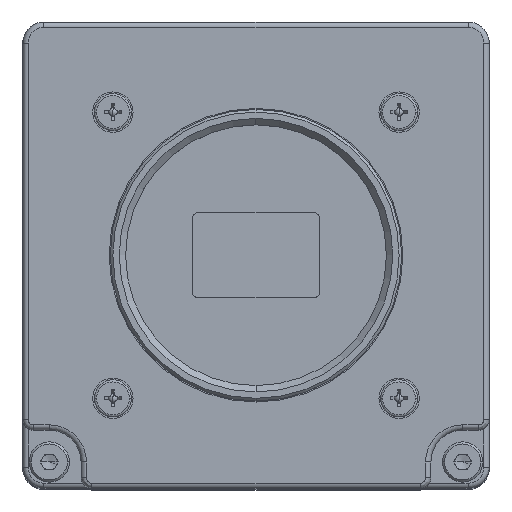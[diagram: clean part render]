
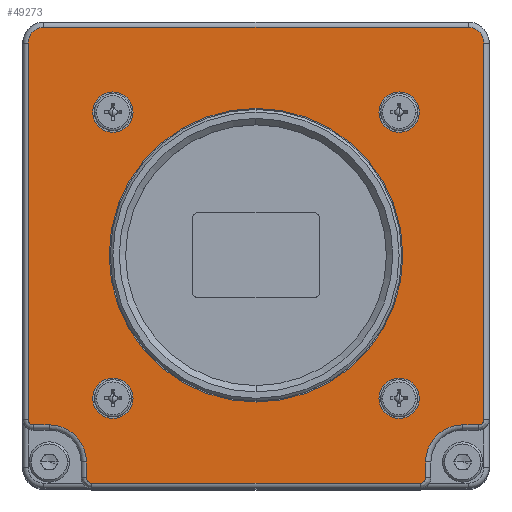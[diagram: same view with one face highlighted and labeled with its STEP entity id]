
A CAD part, top view. The second image highlights one B-rep face of the part: STEP entity #49273.
In plain terms, the highlighted planar face has unit normal (0, 0, 1).
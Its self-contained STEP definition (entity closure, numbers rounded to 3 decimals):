
#10975=CARTESIAN_POINT('',(-21.,-15.5,68.5));
#10976=DIRECTION('',(0.,0.,1.));
#10977=DIRECTION('',(-1.,0.,0.));
#10978=AXIS2_PLACEMENT_3D('',#10975,#10976,#10977);
#10980=CARTESIAN_POINT('',(-20.,20.,68.5));
#10981=DIRECTION('',(0.,0.,1.));
#10982=DIRECTION('',(0.,1.,0.));
#10983=AXIS2_PLACEMENT_3D('',#10980,#10981,#10982);
#10985=CARTESIAN_POINT('',(20.,20.,68.5));
#10986=DIRECTION('',(0.,0.,1.));
#10987=DIRECTION('',(1.,0.,0.));
#10988=AXIS2_PLACEMENT_3D('',#10985,#10986,#10987);
#10990=CARTESIAN_POINT('',(21.,-15.5,68.5));
#10991=DIRECTION('',(0.,0.,1.));
#10992=DIRECTION('',(0.,-1.,0.));
#10993=AXIS2_PLACEMENT_3D('',#10990,#10991,#10992);
#10995=CARTESIAN_POINT('',(19.5,-19.5,68.5));
#10996=DIRECTION('',(0.,0.,-1.));
#10997=DIRECTION('',(-1.,0.,0.));
#10998=AXIS2_PLACEMENT_3D('',#10995,#10996,#10997);
#11000=CARTESIAN_POINT('',(15.5,-21.,68.5));
#11001=DIRECTION('',(0.,0.,1.));
#11002=DIRECTION('',(0.,-1.,0.));
#11003=AXIS2_PLACEMENT_3D('',#11000,#11001,#11002);
#11005=CARTESIAN_POINT('',(-15.5,-21.,68.5));
#11006=DIRECTION('',(0.,0.,1.));
#11007=DIRECTION('',(-1.,0.,0.));
#11008=AXIS2_PLACEMENT_3D('',#11005,#11006,#11007);
#11010=CARTESIAN_POINT('',(-19.5,-19.5,68.5));
#11011=DIRECTION('',(0.,0.,-1.));
#11012=DIRECTION('',(0.,1.,0.));
#11013=AXIS2_PLACEMENT_3D('',#11010,#11011,#11012);
#11015=CARTESIAN_POINT('',(-13.5,13.5,68.5));
#11016=DIRECTION('',(0.,0.,-1.));
#11017=DIRECTION('',(1.,0.,0.));
#11018=AXIS2_PLACEMENT_3D('',#11015,#11016,#11017);
#11020=CARTESIAN_POINT('',(-13.5,13.5,68.5));
#11021=DIRECTION('',(0.,0.,-1.));
#11022=DIRECTION('',(-1.,0.,0.));
#11023=AXIS2_PLACEMENT_3D('',#11020,#11021,#11022);
#11025=CARTESIAN_POINT('',(13.5,13.5,68.5));
#11026=DIRECTION('',(0.,0.,-1.));
#11027=DIRECTION('',(-1.,0.,0.));
#11028=AXIS2_PLACEMENT_3D('',#11025,#11026,#11027);
#11030=CARTESIAN_POINT('',(13.5,13.5,68.5));
#11031=DIRECTION('',(0.,0.,-1.));
#11032=DIRECTION('',(1.,0.,0.));
#11033=AXIS2_PLACEMENT_3D('',#11030,#11031,#11032);
#11035=CARTESIAN_POINT('',(-13.5,-13.5,68.5));
#11036=DIRECTION('',(0.,0.,-1.));
#11037=DIRECTION('',(1.,0.,0.));
#11038=AXIS2_PLACEMENT_3D('',#11035,#11036,#11037);
#11040=CARTESIAN_POINT('',(-13.5,-13.5,68.5));
#11041=DIRECTION('',(0.,0.,-1.));
#11042=DIRECTION('',(-1.,0.,0.));
#11043=AXIS2_PLACEMENT_3D('',#11040,#11041,#11042);
#11045=CARTESIAN_POINT('',(13.5,-13.5,68.5));
#11046=DIRECTION('',(0.,0.,-1.));
#11047=DIRECTION('',(1.,0.,0.));
#11048=AXIS2_PLACEMENT_3D('',#11045,#11046,#11047);
#11050=CARTESIAN_POINT('',(13.5,-13.5,68.5));
#11051=DIRECTION('',(0.,0.,-1.));
#11052=DIRECTION('',(-1.,0.,0.));
#11053=AXIS2_PLACEMENT_3D('',#11050,#11051,#11052);
#11055=CARTESIAN_POINT('',(0.,0.,68.5));
#11056=DIRECTION('',(0.,0.,-1.));
#11057=DIRECTION('',(-1.,0.,0.));
#11058=AXIS2_PLACEMENT_3D('',#11055,#11056,#11057);
#11060=CARTESIAN_POINT('',(0.,0.,68.5));
#11061=DIRECTION('',(0.,0.,-1.));
#11062=DIRECTION('',(1.,0.,0.));
#11063=AXIS2_PLACEMENT_3D('',#11060,#11061,#11062);
#11084=DIRECTION('',(0.,-1.,0.));
#11085=VECTOR('',#11084,35.5);
#11086=CARTESIAN_POINT('',(-21.5,20.,68.5));
#11087=LINE('',#11086,#11085);
#11109=DIRECTION('',(1.,0.,0.));
#11110=VECTOR('',#11109,1.5);
#11111=CARTESIAN_POINT('',(-21.,-16.,68.5));
#11112=LINE('',#11111,#11110);
#11136=DIRECTION('',(0.,-1.,0.));
#11137=VECTOR('',#11136,1.5);
#11138=CARTESIAN_POINT('',(-16.,-19.5,68.5));
#11139=LINE('',#11138,#11137);
#11155=DIRECTION('',(1.,0.,0.));
#11156=VECTOR('',#11155,31.);
#11157=CARTESIAN_POINT('',(-15.5,-21.5,68.5));
#11158=LINE('',#11157,#11156);
#11178=DIRECTION('',(0.,1.,0.));
#11179=VECTOR('',#11178,1.5);
#11180=CARTESIAN_POINT('',(16.,-21.,68.5));
#11181=LINE('',#11180,#11179);
#11205=DIRECTION('',(1.,0.,0.));
#11206=VECTOR('',#11205,1.5);
#11207=CARTESIAN_POINT('',(19.5,-16.,68.5));
#11208=LINE('',#11207,#11206);
#11224=DIRECTION('',(0.,1.,0.));
#11225=VECTOR('',#11224,35.5);
#11226=CARTESIAN_POINT('',(21.5,-15.5,68.5));
#11227=LINE('',#11226,#11225);
#11247=DIRECTION('',(-1.,0.,0.));
#11248=VECTOR('',#11247,40.);
#11249=CARTESIAN_POINT('',(20.,21.5,68.5));
#11250=LINE('',#11249,#11248);
#37268=CARTESIAN_POINT('',(-20.,21.5,68.5));
#37269=CARTESIAN_POINT('',(-21.5,20.,68.5));
#37270=VERTEX_POINT('',#37268);
#37271=VERTEX_POINT('',#37269);
#37272=CARTESIAN_POINT('',(-21.5,-15.5,68.5));
#37273=CARTESIAN_POINT('',(-21.,-16.,68.5));
#37274=VERTEX_POINT('',#37272);
#37275=VERTEX_POINT('',#37273);
#37276=CARTESIAN_POINT('',(20.,21.5,68.5));
#37277=VERTEX_POINT('',#37276);
#37278=CARTESIAN_POINT('',(21.5,20.,68.5));
#37279=VERTEX_POINT('',#37278);
#37280=CARTESIAN_POINT('',(21.5,-15.5,68.5));
#37281=VERTEX_POINT('',#37280);
#37282=CARTESIAN_POINT('',(21.,-16.,68.5));
#37283=VERTEX_POINT('',#37282);
#37284=CARTESIAN_POINT('',(19.5,-16.,68.5));
#37285=VERTEX_POINT('',#37284);
#37286=CARTESIAN_POINT('',(16.,-19.5,68.5));
#37287=VERTEX_POINT('',#37286);
#37288=CARTESIAN_POINT('',(16.,-21.,68.5));
#37289=VERTEX_POINT('',#37288);
#37290=CARTESIAN_POINT('',(15.5,-21.5,68.5));
#37291=VERTEX_POINT('',#37290);
#37292=CARTESIAN_POINT('',(-15.5,-21.5,68.5));
#37293=VERTEX_POINT('',#37292);
#37294=CARTESIAN_POINT('',(-16.,-21.,68.5));
#37295=VERTEX_POINT('',#37294);
#37296=CARTESIAN_POINT('',(-16.,-19.5,68.5));
#37297=VERTEX_POINT('',#37296);
#37298=CARTESIAN_POINT('',(-19.5,-16.,68.5));
#37299=VERTEX_POINT('',#37298);
#37300=CARTESIAN_POINT('',(-11.6,13.5,68.5));
#37301=CARTESIAN_POINT('',(-15.4,13.5,68.5));
#37302=VERTEX_POINT('',#37300);
#37303=VERTEX_POINT('',#37301);
#37304=CARTESIAN_POINT('',(11.6,13.5,68.5));
#37305=CARTESIAN_POINT('',(15.4,13.5,68.5));
#37306=VERTEX_POINT('',#37304);
#37307=VERTEX_POINT('',#37305);
#37308=CARTESIAN_POINT('',(-11.6,-13.5,68.5));
#37309=CARTESIAN_POINT('',(-15.4,-13.5,68.5));
#37310=VERTEX_POINT('',#37308);
#37311=VERTEX_POINT('',#37309);
#37312=CARTESIAN_POINT('',(15.4,-13.5,68.5));
#37313=CARTESIAN_POINT('',(11.6,-13.5,68.5));
#37314=VERTEX_POINT('',#37312);
#37315=VERTEX_POINT('',#37313);
#37316=CARTESIAN_POINT('',(-13.85,0.,68.5));
#37317=CARTESIAN_POINT('',(13.85,0.,68.5));
#37318=VERTEX_POINT('',#37316);
#37319=VERTEX_POINT('',#37317);
#49205=CARTESIAN_POINT('',(0.,0.,68.5));
#49206=DIRECTION('',(0.,0.,1.));
#49207=DIRECTION('',(1.,0.,0.));
#49208=AXIS2_PLACEMENT_3D('',#49205,#49206,#49207);
#49209=PLANE('',#49208);
#49211=ORIENTED_EDGE('',*,*,#49210,.F.);
#49213=ORIENTED_EDGE('',*,*,#49212,.F.);
#49214=ORIENTED_EDGE('',*,*,#49195,.F.);
#49216=ORIENTED_EDGE('',*,*,#49215,.F.);
#49218=ORIENTED_EDGE('',*,*,#49217,.F.);
#49220=ORIENTED_EDGE('',*,*,#49219,.F.);
#49222=ORIENTED_EDGE('',*,*,#49221,.F.);
#49224=ORIENTED_EDGE('',*,*,#49223,.F.);
#49226=ORIENTED_EDGE('',*,*,#49225,.F.);
#49228=ORIENTED_EDGE('',*,*,#49227,.F.);
#49230=ORIENTED_EDGE('',*,*,#49229,.F.);
#49232=ORIENTED_EDGE('',*,*,#49231,.F.);
#49234=ORIENTED_EDGE('',*,*,#49233,.F.);
#49236=ORIENTED_EDGE('',*,*,#49235,.F.);
#49238=ORIENTED_EDGE('',*,*,#49237,.F.);
#49240=ORIENTED_EDGE('',*,*,#49239,.F.);
#49241=EDGE_LOOP('',(#49211,#49213,#49214,#49216,#49218,#49220,#49222,#49224,
#49226,#49228,#49230,#49232,#49234,#49236,#49238,#49240));
#49242=FACE_OUTER_BOUND('',#49241,.F.);
#49244=ORIENTED_EDGE('',*,*,#49243,.F.);
#49246=ORIENTED_EDGE('',*,*,#49245,.F.);
#49247=EDGE_LOOP('',(#49244,#49246));
#49248=FACE_BOUND('',#49247,.F.);
#49250=ORIENTED_EDGE('',*,*,#49249,.F.);
#49252=ORIENTED_EDGE('',*,*,#49251,.F.);
#49253=EDGE_LOOP('',(#49250,#49252));
#49254=FACE_BOUND('',#49253,.F.);
#49256=ORIENTED_EDGE('',*,*,#49255,.F.);
#49258=ORIENTED_EDGE('',*,*,#49257,.F.);
#49259=EDGE_LOOP('',(#49256,#49258));
#49260=FACE_BOUND('',#49259,.F.);
#49262=ORIENTED_EDGE('',*,*,#49261,.F.);
#49264=ORIENTED_EDGE('',*,*,#49263,.F.);
#49265=EDGE_LOOP('',(#49262,#49264));
#49266=FACE_BOUND('',#49265,.F.);
#49268=ORIENTED_EDGE('',*,*,#49267,.F.);
#49270=ORIENTED_EDGE('',*,*,#49269,.F.);
#49271=EDGE_LOOP('',(#49268,#49270));
#49272=FACE_BOUND('',#49271,.F.);
#49273=ADVANCED_FACE('',(#49242,#49248,#49254,#49260,#49266,#49272),#49209,.T.);
#10979=CIRCLE('',#10978,0.5);
#10984=CIRCLE('',#10983,1.5);
#10989=CIRCLE('',#10988,1.5);
#10994=CIRCLE('',#10993,0.5);
#10999=CIRCLE('',#10998,3.5);
#11004=CIRCLE('',#11003,0.5);
#11009=CIRCLE('',#11008,0.5);
#11014=CIRCLE('',#11013,3.5);
#11019=CIRCLE('',#11018,1.9);
#11024=CIRCLE('',#11023,1.9);
#11029=CIRCLE('',#11028,1.9);
#11034=CIRCLE('',#11033,1.9);
#11039=CIRCLE('',#11038,1.9);
#11044=CIRCLE('',#11043,1.9);
#11049=CIRCLE('',#11048,1.9);
#11054=CIRCLE('',#11053,1.9);
#11059=CIRCLE('',#11058,13.85);
#11064=CIRCLE('',#11063,13.85);
#49195=EDGE_CURVE('',#37270,#37271,#10984,.T.);
#49210=EDGE_CURVE('',#37274,#37275,#10979,.T.);
#49212=EDGE_CURVE('',#37271,#37274,#11087,.T.);
#49215=EDGE_CURVE('',#37277,#37270,#11250,.T.);
#49217=EDGE_CURVE('',#37279,#37277,#10989,.T.);
#49219=EDGE_CURVE('',#37281,#37279,#11227,.T.);
#49221=EDGE_CURVE('',#37283,#37281,#10994,.T.);
#49223=EDGE_CURVE('',#37285,#37283,#11208,.T.);
#49225=EDGE_CURVE('',#37287,#37285,#10999,.T.);
#49227=EDGE_CURVE('',#37289,#37287,#11181,.T.);
#49229=EDGE_CURVE('',#37291,#37289,#11004,.T.);
#49231=EDGE_CURVE('',#37293,#37291,#11158,.T.);
#49233=EDGE_CURVE('',#37295,#37293,#11009,.T.);
#49235=EDGE_CURVE('',#37297,#37295,#11139,.T.);
#49237=EDGE_CURVE('',#37299,#37297,#11014,.T.);
#49239=EDGE_CURVE('',#37275,#37299,#11112,.T.);
#49243=EDGE_CURVE('',#37302,#37303,#11019,.T.);
#49245=EDGE_CURVE('',#37303,#37302,#11024,.T.);
#49249=EDGE_CURVE('',#37306,#37307,#11029,.T.);
#49251=EDGE_CURVE('',#37307,#37306,#11034,.T.);
#49255=EDGE_CURVE('',#37310,#37311,#11039,.T.);
#49257=EDGE_CURVE('',#37311,#37310,#11044,.T.);
#49261=EDGE_CURVE('',#37314,#37315,#11049,.T.);
#49263=EDGE_CURVE('',#37315,#37314,#11054,.T.);
#49267=EDGE_CURVE('',#37318,#37319,#11059,.T.);
#49269=EDGE_CURVE('',#37319,#37318,#11064,.T.);
